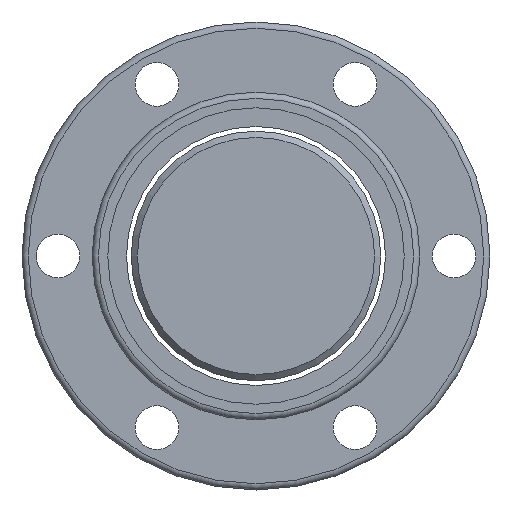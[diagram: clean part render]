
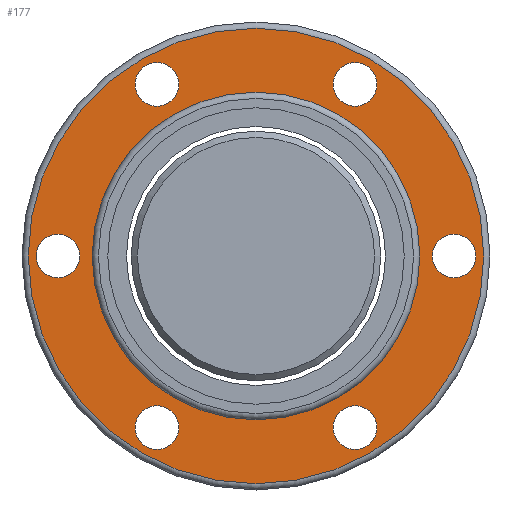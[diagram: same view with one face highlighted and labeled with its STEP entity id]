
A CAD part, left-side view. The second image highlights one B-rep face of the part: STEP entity #177.
In plain terms, the highlighted planar face has unit normal (-1, 0, 0).
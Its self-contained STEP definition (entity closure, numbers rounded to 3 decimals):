
#126=PLANE('',#836);
#147=FACE_OUTER_BOUND('',#369,.T.);
#177=ADVANCED_FACE('',(#266,#267,#268,#269,#270,#271,#147,#272),#126,.F.);
#266=FACE_BOUND('',#363,.T.);
#267=FACE_BOUND('',#364,.T.);
#268=FACE_BOUND('',#365,.T.);
#269=FACE_BOUND('',#366,.T.);
#270=FACE_BOUND('',#367,.T.);
#271=FACE_BOUND('',#368,.T.);
#272=FACE_BOUND('',#370,.T.);
#363=EDGE_LOOP('',(#479));
#364=EDGE_LOOP('',(#480));
#365=EDGE_LOOP('',(#481));
#366=EDGE_LOOP('',(#482));
#367=EDGE_LOOP('',(#483));
#368=EDGE_LOOP('',(#484));
#369=EDGE_LOOP('',(#485));
#370=EDGE_LOOP('',(#486));
#479=ORIENTED_EDGE('',*,*,#679,.T.);
#480=ORIENTED_EDGE('',*,*,#680,.T.);
#481=ORIENTED_EDGE('',*,*,#681,.T.);
#482=ORIENTED_EDGE('',*,*,#682,.T.);
#483=ORIENTED_EDGE('',*,*,#683,.T.);
#484=ORIENTED_EDGE('',*,*,#684,.T.);
#485=ORIENTED_EDGE('',*,*,#685,.F.);
#486=ORIENTED_EDGE('',*,*,#677,.T.);
#611=VERTEX_POINT('',#1206);
#613=VERTEX_POINT('',#1211);
#614=VERTEX_POINT('',#1213);
#615=VERTEX_POINT('',#1215);
#616=VERTEX_POINT('',#1217);
#617=VERTEX_POINT('',#1219);
#618=VERTEX_POINT('',#1221);
#619=VERTEX_POINT('',#1223);
#677=EDGE_CURVE('',#611,#611,#749,.T.);
#679=EDGE_CURVE('',#613,#613,#751,.T.);
#680=EDGE_CURVE('',#614,#614,#752,.T.);
#681=EDGE_CURVE('',#615,#615,#753,.T.);
#682=EDGE_CURVE('',#616,#616,#754,.T.);
#683=EDGE_CURVE('',#617,#617,#755,.T.);
#684=EDGE_CURVE('',#618,#618,#756,.T.);
#685=EDGE_CURVE('',#619,#619,#757,.T.);
#749=CIRCLE('',#826,52.5);
#751=CIRCLE('',#829,7.);
#752=CIRCLE('',#830,7.);
#753=CIRCLE('',#831,7.);
#754=CIRCLE('',#832,7.);
#755=CIRCLE('',#833,7.);
#756=CIRCLE('',#834,7.);
#757=CIRCLE('',#835,73.);
#826=AXIS2_PLACEMENT_3D('',#1205,#970,#971);
#829=AXIS2_PLACEMENT_3D('',#1210,#976,#977);
#830=AXIS2_PLACEMENT_3D('',#1212,#978,#979);
#831=AXIS2_PLACEMENT_3D('',#1214,#980,#981);
#832=AXIS2_PLACEMENT_3D('',#1216,#982,#983);
#833=AXIS2_PLACEMENT_3D('',#1218,#984,#985);
#834=AXIS2_PLACEMENT_3D('',#1220,#986,#987);
#835=AXIS2_PLACEMENT_3D('',#1222,#988,#989);
#836=AXIS2_PLACEMENT_3D('',#1224,#990,#991);
#970=DIRECTION('',(1.,0.,0.));
#971=DIRECTION('',(0.,1.,0.));
#976=DIRECTION('',(1.,0.,0.));
#977=DIRECTION('',(0.,1.,0.));
#978=DIRECTION('',(1.,0.,0.));
#979=DIRECTION('',(0.,1.,0.));
#980=DIRECTION('',(1.,0.,0.));
#981=DIRECTION('',(0.,1.,0.));
#982=DIRECTION('',(1.,0.,0.));
#983=DIRECTION('',(0.,1.,0.));
#984=DIRECTION('',(1.,0.,0.));
#985=DIRECTION('',(0.,1.,0.));
#986=DIRECTION('',(1.,0.,0.));
#987=DIRECTION('',(0.,1.,0.));
#988=DIRECTION('',(1.,0.,0.));
#989=DIRECTION('',(0.,1.,0.));
#990=DIRECTION('',(1.,0.,0.));
#991=DIRECTION('',(0.,1.,0.));
#1205=CARTESIAN_POINT('',(-42.,0.,0.));
#1206=CARTESIAN_POINT('',(-42.,52.5,0.));
#1210=CARTESIAN_POINT('',(-42.,31.75,-54.993));
#1211=CARTESIAN_POINT('',(-42.,38.75,-54.993));
#1212=CARTESIAN_POINT('',(-42.,-31.75,-54.993));
#1213=CARTESIAN_POINT('',(-42.,-24.75,-54.993));
#1214=CARTESIAN_POINT('',(-42.,-63.5,0.));
#1215=CARTESIAN_POINT('',(-42.,-56.5,0.));
#1216=CARTESIAN_POINT('',(-42.,-31.75,54.993));
#1217=CARTESIAN_POINT('',(-42.,-24.75,54.993));
#1218=CARTESIAN_POINT('',(-42.,31.75,54.993));
#1219=CARTESIAN_POINT('',(-42.,38.75,54.993));
#1220=CARTESIAN_POINT('',(-42.,63.5,0.));
#1221=CARTESIAN_POINT('',(-42.,70.5,0.));
#1222=CARTESIAN_POINT('',(-42.,0.,0.));
#1223=CARTESIAN_POINT('',(-42.,73.,0.));
#1224=CARTESIAN_POINT('',(-42.,62.75,0.));
